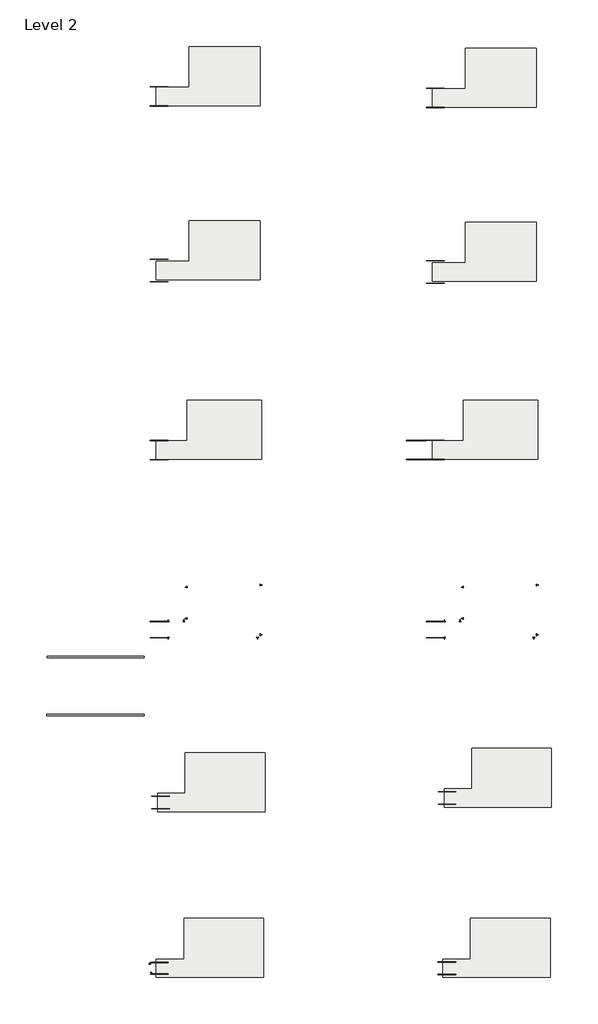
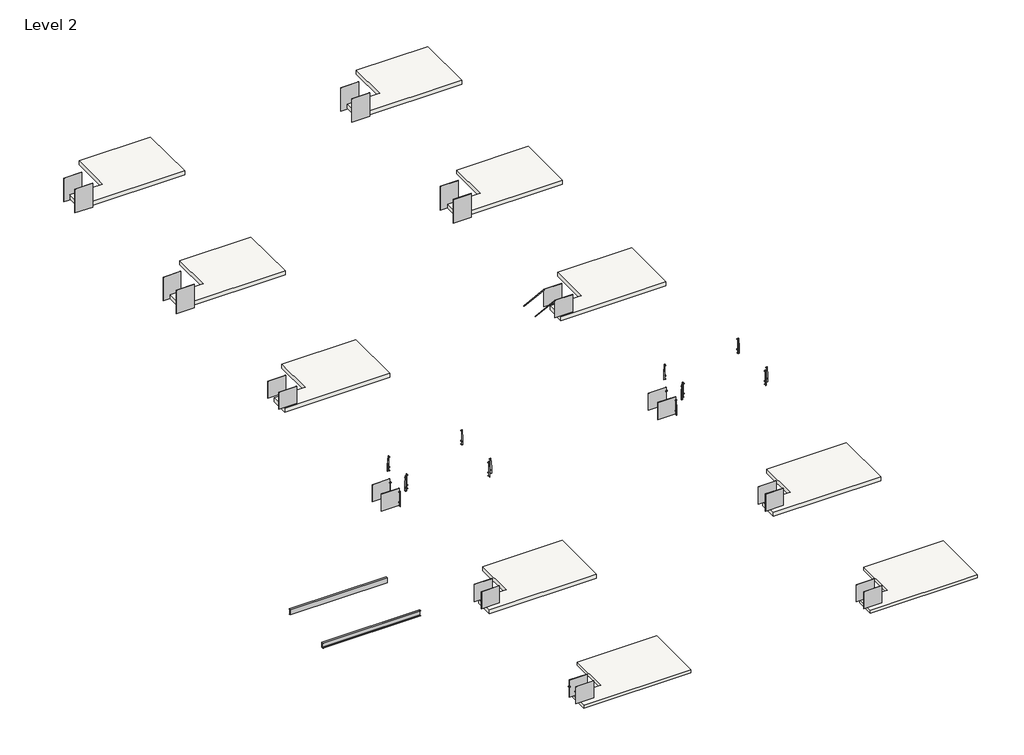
# One storey: 24 railings, 22 proxies, 10 slabs, 2 beams.
"""IFC4 building model written with IfcOpenShell, lengths in millimetres."""

from ifc_helpers import new_model, si_unit, point, frame, frame_2d, origin, place, context, project, spatial, polyline, circle_curve, trimmed, segment, composite_curve, outline, extrude, transform, mapped, element, save
from components import baluster_end_post_viva_solo_top_mount_welded_steel_channel_1b436ed5, baluster_end_post_viva_solo_top_mount_welded_steel_channel_cdb94760, baluster_end_post_viva_solo_top_mount_welded_steel_channel_e8a737ba, baluster_end_post_viva_solo_top_mount_welded_steel_channel_5e72ad2b, proxy_d6ac6665, top_rail_type_04732f16, top_rail_type_fascia_b1_stairs_f61284e1, fascia_glass_4227fe0e, fascia_glass_1f238249, fascia_glass_e3ba14f9, standard_glass_f61237d7, standard_glass_70b5ddb1, standard_glass_1c98aee0, standard_glass_702ddc61

model = new_model("IFC4")

# Units and contexts
model_context = context("Model", 3, world=origin())
ifc_project = project(units=[si_unit("LENGTHUNIT", "METRE", prefix="MILLI")], contexts=[model_context])

# Site, building, storey
site = spatial("IfcSite", under=ifc_project)
building = spatial("IfcBuilding", under=site)
storey = spatial("IfcBuildingStorey", under=building, Name="Level 2", Elevation=3048.0)

# Beams
placement = place(None, origin())
element("IfcBeam", 1, ObjectType="C-Channel : C12X30", at=placement, inside=storey, context=model_context, shape_type="SweptSolid", body=[
    extrude(outline(composite_curve([segment(polyline([(8765.1159615, 38.1), (8765.1159615, -266.7), (8684.5503365, -266.7)]), True, "CONTINUOUS"), segment(trimmed(circle_curve(frame_2d((8697.2503365, -266.7)), 12.7), [point((8684.5503365, -266.7))], [point((8697.2503365, -254.0))], False, "CARTESIAN"), True, "CONTINUOUS"), segment(polyline([(8697.2503365, -254.0), (8752.1183052, -245.3097675), (8752.1183052, 16.7097675), (8697.2503365, 25.4)]), True, "CONTINUOUS"), segment(trimmed(circle_curve(frame_2d((8697.2503365, 38.1)), 12.7), [point((8697.2503365, 25.4))], [point((8684.5503365, 38.1))], False, "CARTESIAN"), True, "CONTINUOUS"), segment(polyline([(8684.5503365, 38.1), (8765.1159615, 38.1)]), True, "CONTINUOUS")], self_intersect=False)), frame((-13153.9043293, 0.0, 0.0), z_axis=(1.0, 0.0, 0.0), x_axis=(0.0, 1.0, 0.0)), (0.0, 0.0, 1.0), 5394.5811842),
])
element("IfcBeam", 2, ObjectType="C-Channel : C12X30", at=placement, inside=storey, context=model_context, shape_type="SweptSolid", body=[
    extrude(outline(composite_curve([segment(polyline([(11863.9159615, 38.1), (11944.4815865, 38.1)]), True, "CONTINUOUS"), segment(trimmed(circle_curve(frame_2d((11931.7815865, 38.1)), 12.7), [point((11944.4815865, 38.1))], [point((11931.7815865, 25.4))], False, "CARTESIAN"), True, "CONTINUOUS"), segment(polyline([(11931.7815865, 25.4), (11876.9136177, 16.7097675), (11876.9136177, -245.3097675), (11931.7815865, -254.0)]), True, "CONTINUOUS"), segment(trimmed(circle_curve(frame_2d((11931.7815865, -266.7)), 12.7), [point((11931.7815865, -254.0))], [point((11944.4815865, -266.7))], False, "CARTESIAN"), True, "CONTINUOUS"), segment(polyline([(11944.4815865, -266.7), (11863.9159615, -266.7), (11863.9159615, 38.1)]), True, "CONTINUOUS")], self_intersect=False)), frame((-13118.7231451, 0.0, 0.0), z_axis=(1.0, 0.0, 0.0), x_axis=(0.0, 1.0, 0.0)), (0.0, 0.0, 1.0), 5359.4),
])

# Proxies
baluster_end_post_viva_solo_top_mount_welded_steel_channel_shape = baluster_end_post_viva_solo_top_mount_welded_steel_channel_1b436ed5(model_context)
element("IfcBuildingElementProxy", 3, Name="Baluster-End-Post-VIVA-SOLO-Top Mount : WELDED STEEL CHANNEL_TOP MOUNT FOLD_STRAIGHT", ObjectType="Baluster-End-Post-VIVA-SOLO-Top Mount : WELDED STEEL CHANNEL_TOP MOUNT FOLD_STRAIGHT", at=placement, inside=storey, context=model_context, shape_type="MappedRepresentation", body=[
    mapped(baluster_end_post_viva_solo_top_mount_welded_steel_channel_shape, transform((-5380.0229159, 13884.8448949, 3047.492), x_axis=(0.0, -1.0, 0.0), y_axis=(1.0, 0.0, 0.0), z_axis=(0.0, 0.0, 1.0))),
])
element("IfcBuildingElementProxy", 4, Name="Baluster-End-Post-VIVA-SOLO-Top Mount : WELDED STEEL CHANNEL_TOP MOUNT FOLD_STRAIGHT", ObjectType="Baluster-End-Post-VIVA-SOLO-Top Mount : WELDED STEEL CHANNEL_TOP MOUNT FOLD_STRAIGHT", at=placement, inside=storey, context=model_context, shape_type="MappedRepresentation", body=[
    mapped(baluster_end_post_viva_solo_top_mount_welded_steel_channel_shape, transform((-1359.864819, 13017.1276645, 3047.492), x_axis=(1.0, 0.0, 0.0), y_axis=(0.0, 1.0, 0.0), z_axis=(0.0, 0.0, 1.0))),
])
element("IfcBuildingElementProxy", 5, Name="Baluster-End-Post-VIVA-SOLO-Top Mount : WELDED STEEL CHANNEL_TOP MOUNT FOLD_STRAIGHT", ObjectType="Baluster-End-Post-VIVA-SOLO-Top Mount : WELDED STEEL CHANNEL_TOP MOUNT FOLD_STRAIGHT", at=placement, inside=storey, context=model_context, shape_type="MappedRepresentation", body=[
    mapped(baluster_end_post_viva_solo_top_mount_welded_steel_channel_shape, transform((-1384.947319, 16035.2826645, 3047.492), x_axis=(0.0, 1.0, 0.0), y_axis=(-1.0, 0.0, 0.0), z_axis=(0.0, 0.0, 1.0))),
])
element("IfcBuildingElementProxy", 6, Name="Baluster-End-Post-VIVA-SOLO-Top Mount : WELDED STEEL CHANNEL_TOP MOUNT FOLD_STRAIGHT", ObjectType="Baluster-End-Post-VIVA-SOLO-Top Mount : WELDED STEEL CHANNEL_TOP MOUNT FOLD_STRAIGHT", at=placement, inside=storey, context=model_context, shape_type="MappedRepresentation", body=[
    mapped(baluster_end_post_viva_solo_top_mount_welded_steel_channel_shape, transform((9859.4765953, 13884.8448949, 3047.492), x_axis=(0.0, -1.0, 0.0), y_axis=(1.0, 0.0, 0.0), z_axis=(0.0, 0.0, 1.0))),
])
element("IfcBuildingElementProxy", 7, Name="Baluster-End-Post-VIVA-SOLO-Top Mount : WELDED STEEL CHANNEL_TOP MOUNT FOLD_STRAIGHT", ObjectType="Baluster-End-Post-VIVA-SOLO-Top Mount : WELDED STEEL CHANNEL_TOP MOUNT FOLD_STRAIGHT", at=placement, inside=storey, context=model_context, shape_type="MappedRepresentation", body=[
    mapped(baluster_end_post_viva_solo_top_mount_welded_steel_channel_shape, transform((13879.6346922, 13017.1276645, 3047.492), x_axis=(1.0, 0.0, 0.0), y_axis=(0.0, 1.0, 0.0), z_axis=(0.0, 0.0, 1.0))),
])
element("IfcBuildingElementProxy", 8, Name="Baluster-End-Post-VIVA-SOLO-Top Mount : WELDED STEEL CHANNEL_TOP MOUNT FOLD_STRAIGHT", ObjectType="Baluster-End-Post-VIVA-SOLO-Top Mount : WELDED STEEL CHANNEL_TOP MOUNT FOLD_STRAIGHT", at=placement, inside=storey, context=model_context, shape_type="MappedRepresentation", body=[
    mapped(baluster_end_post_viva_solo_top_mount_welded_steel_channel_shape, transform((13854.5521922, 16035.2826645, 3047.492), x_axis=(0.0, 1.0, 0.0), y_axis=(-1.0, 0.0, 0.0), z_axis=(0.0, 0.0, 1.0))),
])
baluster_end_post_viva_solo_top_mount_welded_steel_channel_2_shape = baluster_end_post_viva_solo_top_mount_welded_steel_channel_cdb94760(model_context)
element("IfcBuildingElementProxy", 9, Name="Baluster-End-Post-VIVA-SOLO-Top Mount : WELDED STEEL CHANNEL_TOP MOUNT FOLD_STRAIGHT", ObjectType="Baluster-End-Post-VIVA-SOLO-Top Mount : WELDED STEEL CHANNEL_TOP MOUNT FOLD_STRAIGHT", at=placement, inside=storey, context=model_context, shape_type="MappedRepresentation", body=[
    mapped(baluster_end_post_viva_solo_top_mount_welded_steel_channel_2_shape, transform((-6439.864819, 13017.1276645, 3047.492), x_axis=(1.0, 0.0, 0.0), y_axis=(0.0, 1.0, 0.0), z_axis=(0.0, 0.0, 1.0))),
])
element("IfcBuildingElementProxy", 10, Name="Baluster-End-Post-VIVA-SOLO-Top Mount : WELDED STEEL CHANNEL_TOP MOUNT FOLD_STRAIGHT", ObjectType="Baluster-End-Post-VIVA-SOLO-Top Mount : WELDED STEEL CHANNEL_TOP MOUNT FOLD_STRAIGHT", at=placement, inside=storey, context=model_context, shape_type="MappedRepresentation", body=[
    mapped(baluster_end_post_viva_solo_top_mount_welded_steel_channel_2_shape, transform((8799.6346922, 13017.1276645, 3047.492), x_axis=(1.0, 0.0, 0.0), y_axis=(0.0, 1.0, 0.0), z_axis=(0.0, 0.0, 1.0))),
])
baluster_end_post_viva_solo_top_mount_welded_steel_channel_3_shape = baluster_end_post_viva_solo_top_mount_welded_steel_channel_e8a737ba(model_context)
element("IfcBuildingElementProxy", 11, Name="Baluster-End-Post-VIVA-SOLO-Top Mount : WELDED STEEL CHANNEL_TOP MOUNT FOLD_STRAIGHT", ObjectType="Baluster-End-Post-VIVA-SOLO-Top Mount : WELDED STEEL CHANNEL_TOP MOUNT FOLD_STRAIGHT", at=placement, inside=storey, context=model_context, shape_type="MappedRepresentation", body=[
    mapped(baluster_end_post_viva_solo_top_mount_welded_steel_channel_3_shape, transform((-6439.864819, 13839.5796645, 3047.492), x_axis=(-1.0, 0.0, 0.0), y_axis=(0.0, -1.0, 0.0), z_axis=(0.0, 0.0, 1.0))),
])
element("IfcBuildingElementProxy", 12, Name="Baluster-End-Post-VIVA-SOLO-Top Mount : WELDED STEEL CHANNEL_TOP MOUNT FOLD_STRAIGHT", ObjectType="Baluster-End-Post-VIVA-SOLO-Top Mount : WELDED STEEL CHANNEL_TOP MOUNT FOLD_STRAIGHT", at=placement, inside=storey, context=model_context, shape_type="MappedRepresentation", body=[
    mapped(baluster_end_post_viva_solo_top_mount_welded_steel_channel_3_shape, transform((8799.6346922, 13839.5796645, 3047.492), x_axis=(-1.0, 0.0, 0.0), y_axis=(0.0, -1.0, 0.0), z_axis=(0.0, 0.0, 1.0))),
])
baluster_end_post_viva_solo_top_mount_welded_steel_channel_4_shape = baluster_end_post_viva_solo_top_mount_welded_steel_channel_5e72ad2b(model_context)
element("IfcBuildingElementProxy", 13, Name="Baluster-End-Post-VIVA-SOLO-Top Mount : WELDED STEEL CHANNEL_TOP MOUNT FOLD_STRAIGHT", ObjectType="Baluster-End-Post-VIVA-SOLO-Top Mount : WELDED STEEL CHANNEL_TOP MOUNT FOLD_STRAIGHT", at=placement, inside=storey, context=model_context, shape_type="MappedRepresentation", body=[
    mapped(baluster_end_post_viva_solo_top_mount_welded_steel_channel_4_shape, transform((-5423.864819, 13839.5796645, 3047.492), x_axis=(-1.0, 0.0, 0.0), y_axis=(0.0, -1.0, 0.0), z_axis=(0.0, 0.0, 1.0))),
])
element("IfcBuildingElementProxy", 14, Name="Baluster-End-Post-VIVA-SOLO-Top Mount : WELDED STEEL CHANNEL_TOP MOUNT FOLD_STRAIGHT", ObjectType="Baluster-End-Post-VIVA-SOLO-Top Mount : WELDED STEEL CHANNEL_TOP MOUNT FOLD_STRAIGHT", at=placement, inside=storey, context=model_context, shape_type="MappedRepresentation", body=[
    mapped(baluster_end_post_viva_solo_top_mount_welded_steel_channel_4_shape, transform((-5380.0229159, 15916.8448949, 3047.492), x_axis=(0.0, -1.0, 0.0), y_axis=(1.0, 0.0, 0.0), z_axis=(0.0, 0.0, 1.0))),
])
element("IfcBuildingElementProxy", 15, Name="Baluster-End-Post-VIVA-SOLO-Top Mount : WELDED STEEL CHANNEL_TOP MOUNT FOLD_STRAIGHT", ObjectType="Baluster-End-Post-VIVA-SOLO-Top Mount : WELDED STEEL CHANNEL_TOP MOUNT FOLD_STRAIGHT", at=placement, inside=storey, context=model_context, shape_type="MappedRepresentation", body=[
    mapped(baluster_end_post_viva_solo_top_mount_welded_steel_channel_4_shape, transform((-1384.947319, 12987.2826645, 3047.492), x_axis=(0.0, 1.0, 0.0), y_axis=(-1.0, 0.0, 0.0), z_axis=(0.0, 0.0, 1.0))),
])
element("IfcBuildingElementProxy", 16, Name="Baluster-End-Post-VIVA-SOLO-Top Mount : WELDED STEEL CHANNEL_TOP MOUNT FOLD_STRAIGHT", ObjectType="Baluster-End-Post-VIVA-SOLO-Top Mount : WELDED STEEL CHANNEL_TOP MOUNT FOLD_STRAIGHT", at=placement, inside=storey, context=model_context, shape_type="MappedRepresentation", body=[
    mapped(baluster_end_post_viva_solo_top_mount_welded_steel_channel_4_shape, transform((9815.6346922, 13839.5796645, 3047.492), x_axis=(-1.0, 0.0, 0.0), y_axis=(0.0, -1.0, 0.0), z_axis=(0.0, 0.0, 1.0))),
])
element("IfcBuildingElementProxy", 17, Name="Baluster-End-Post-VIVA-SOLO-Top Mount : WELDED STEEL CHANNEL_TOP MOUNT FOLD_STRAIGHT", ObjectType="Baluster-End-Post-VIVA-SOLO-Top Mount : WELDED STEEL CHANNEL_TOP MOUNT FOLD_STRAIGHT", at=placement, inside=storey, context=model_context, shape_type="MappedRepresentation", body=[
    mapped(baluster_end_post_viva_solo_top_mount_welded_steel_channel_4_shape, transform((9859.4765953, 15916.8448949, 3047.492), x_axis=(0.0, -1.0, 0.0), y_axis=(1.0, 0.0, 0.0), z_axis=(0.0, 0.0, 1.0))),
])
element("IfcBuildingElementProxy", 18, Name="Baluster-End-Post-VIVA-SOLO-Top Mount : WELDED STEEL CHANNEL_TOP MOUNT FOLD_STRAIGHT", ObjectType="Baluster-End-Post-VIVA-SOLO-Top Mount : WELDED STEEL CHANNEL_TOP MOUNT FOLD_STRAIGHT", at=placement, inside=storey, context=model_context, shape_type="MappedRepresentation", body=[
    mapped(baluster_end_post_viva_solo_top_mount_welded_steel_channel_4_shape, transform((13854.5521922, 12987.2826645, 3047.492), x_axis=(0.0, 1.0, 0.0), y_axis=(-1.0, 0.0, 0.0), z_axis=(0.0, 0.0, 1.0))),
])
proxy_shape = proxy_d6ac6665(model_context)
element("IfcBuildingElementProxy", 19, Name="Circular - 1 1/2\" Straight - Support : Circular - 1 1/2\" Straight - Support", ObjectType="Circular - 1 1/2\" Straight - Support : Circular - 1 1/2\" Straight - Support", at=placement, inside=storey, context=model_context, shape_type="MappedRepresentation", body=[
    mapped(proxy_shape, transform((-7414.4484971, -5473.1403686, 3759.301061), x_axis=(1.0, 0.0, 0.0), y_axis=(0.0, 1.0, 0.0), z_axis=(0.0, 0.0, 1.0))),
])
element("IfcBuildingElementProxy", 20, Name="Circular - 1 1/2\" Straight - Support : Circular - 1 1/2\" Straight - Support", ObjectType="Circular - 1 1/2\" Straight - Support : Circular - 1 1/2\" Straight - Support", at=placement, inside=storey, context=model_context, shape_type="MappedRepresentation", body=[
    mapped(proxy_shape, transform((-7414.4484971, -5009.5903686, 3759.301061), x_axis=(-1.0, 0.0, 0.0), y_axis=(0.0, -1.0, 0.0), z_axis=(0.0, 0.0, 1.0))),
])
element("IfcBuildingElementProxy", 21, Name="Circular - 1 1/2\" Straight - Support : Circular - 1 1/2\" Straight - Support", ObjectType="Circular - 1 1/2\" Straight - Support : Circular - 1 1/2\" Straight - Support", at=placement, inside=storey, context=model_context, shape_type="MappedRepresentation", body=[
    mapped(proxy_shape, transform((-7414.4484971, -5473.1403686, 3759.301061), x_axis=(1.0, 0.0, 0.0), y_axis=(0.0, 1.0, 0.0), z_axis=(0.0, 0.0, 1.0))),
])
element("IfcBuildingElementProxy", 22, Name="Circular - 1 1/2\" Straight - Support : Circular - 1 1/2\" Straight - Support", ObjectType="Circular - 1 1/2\" Straight - Support : Circular - 1 1/2\" Straight - Support", at=placement, inside=storey, context=model_context, shape_type="MappedRepresentation", body=[
    mapped(proxy_shape, transform((-7414.4484971, -5009.5903686, 3759.301061), x_axis=(-1.0, 0.0, 0.0), y_axis=(0.0, -1.0, 0.0), z_axis=(0.0, 0.0, 1.0))),
])
top_rail_type_shape = top_rail_type_04732f16(model_context)
element("IfcBuildingElementProxy", 23, Name="Top Rail Type", ObjectType="Top Rail Type", at=placement, inside=storey, context=model_context, shape_type="MappedRepresentation", body=[
    mapped(top_rail_type_shape, transform((0.0, 0.0, 0.0), x_axis=(1.0, 0.0, 0.0), y_axis=(0.0, 1.0, 0.0), z_axis=(0.0, 0.0, 1.0))),
])
top_rail_type_fascia_b1_stairs_shape = top_rail_type_fascia_b1_stairs_f61284e1(model_context)
element("IfcBuildingElementProxy", 24, Name="Top Rail Type Fascia B1 Stairs", ObjectType="Top Rail Type Fascia B1 Stairs", at=placement, inside=storey, context=model_context, shape_type="MappedRepresentation", body=[
    mapped(top_rail_type_fascia_b1_stairs_shape, transform((0.0, 0.0, 0.0), x_axis=(1.0, 0.0, 0.0), y_axis=(0.0, 1.0, 0.0), z_axis=(0.0, 0.0, 1.0))),
])

# Railings
fascia_glass_shape = fascia_glass_4227fe0e(model_context)
element("IfcRailing", 25, ObjectType="Baluster-Excess-Fill-Straight-Panel-VIVA : Fascia_Glass", at=placement, inside=storey, context=model_context, shape_type="MappedRepresentation", body=[
    mapped(fascia_glass_shape, transform((-7438.9302571, 32625.8869132, 3048.0), x_axis=(0.0, -1.0, 0.0), y_axis=(1.0, 0.0, 0.0), z_axis=(0.0, 0.0, 1.0))),
])
element("IfcRailing", 26, ObjectType="Baluster-Excess-Fill-Straight-Panel-VIVA : Fascia_Glass", at=placement, inside=storey, context=model_context, shape_type="MappedRepresentation", body=[
    mapped(fascia_glass_shape, transform((-7438.9302571, 42322.3242132, 3048.0), x_axis=(0.0, -1.0, 0.0), y_axis=(1.0, 0.0, 0.0), z_axis=(0.0, 0.0, 1.0))),
])
element("IfcRailing", 27, ObjectType="Baluster-Excess-Fill-Straight-Panel-VIVA : Fascia_Glass", at=placement, inside=storey, context=model_context, shape_type="MappedRepresentation", body=[
    mapped(fascia_glass_shape, transform((7800.5692541, 42239.3431835, 3048.0), x_axis=(0.0, -1.0, 0.0), y_axis=(1.0, 0.0, 0.0), z_axis=(0.0, 0.0, 1.0))),
])
fascia_glass_2_shape = fascia_glass_1f238249(model_context)
element("IfcRailing", 28, ObjectType="Baluster-Excess-Fill-Straight-Panel-VIVA : Fascia_Glass", at=placement, inside=storey, context=model_context, shape_type="MappedRepresentation", body=[
    mapped(fascia_glass_2_shape, transform((-7438.9302571, 33812.7564752, 3048.0), x_axis=(0.0, 1.0, 0.0), y_axis=(-1.0, 0.0, 0.0), z_axis=(0.0, 0.0, 1.0))),
])
element("IfcRailing", 29, ObjectType="Baluster-Excess-Fill-Straight-Panel-VIVA : Fascia_Glass", at=placement, inside=storey, context=model_context, shape_type="MappedRepresentation", body=[
    mapped(fascia_glass_2_shape, transform((7800.5692541, 33729.7754454, 3048.0), x_axis=(0.0, 1.0, 0.0), y_axis=(-1.0, 0.0, 0.0), z_axis=(0.0, 0.0, 1.0))),
])
element("IfcRailing", 30, ObjectType="Baluster-Excess-Fill-Straight-Panel-VIVA : Fascia_Glass", at=placement, inside=storey, context=model_context, shape_type="MappedRepresentation", body=[
    mapped(fascia_glass_2_shape, transform((-7438.9302571, 43312.3291942, 3048.0), x_axis=(0.0, 1.0, 0.0), y_axis=(-1.0, 0.0, 0.0), z_axis=(0.0, 0.0, 1.0))),
])
element("IfcRailing", 31, ObjectType="Baluster-Excess-Fill-Straight-Panel-VIVA : Fascia_Glass", at=placement, inside=storey, context=model_context, shape_type="MappedRepresentation", body=[
    mapped(fascia_glass_2_shape, transform((7800.5692541, 43229.3481645, 3048.0), x_axis=(0.0, 1.0, 0.0), y_axis=(-1.0, 0.0, 0.0), z_axis=(0.0, 0.0, 1.0))),
])
fascia_glass_3_shape = fascia_glass_e3ba14f9(model_context)
element("IfcRailing", 32, ObjectType="Baluster-Excess-Fill-Straight-Panel-VIVA : Fascia_Glass", at=placement, inside=storey, context=model_context, shape_type="MappedRepresentation", body=[
    mapped(fascia_glass_3_shape, transform((7795.6592696, 32542.9058835, 3048.0), x_axis=(0.0, -1.0, 0.0), y_axis=(1.0, 0.0, 0.0), z_axis=(0.0, 0.0, 1.0))),
])
standard_glass_shape = standard_glass_f61237d7(model_context)
element("IfcRailing", 33, ObjectType="Baluster-Excess-Fill-Straight-Panel-VIVA : Standard_Glass", at=placement, inside=storey, context=model_context, shape_type="MappedRepresentation", body=[
    mapped(standard_glass_shape, transform((8450.5843963, 3838.276149, 3048.0), x_axis=(0.0, -1.0, 0.0), y_axis=(1.0, 0.0, 0.0), z_axis=(0.0, 0.0, 1.0))),
])
element("IfcRailing", 34, ObjectType="Baluster-Excess-Fill-Straight-Panel-VIVA : Standard_Glass", at=placement, inside=storey, context=model_context, shape_type="MappedRepresentation", body=[
    mapped(standard_glass_shape, transform((-7363.6892687, 3583.8130519, 3048.0), x_axis=(0.0, -1.0, 0.0), y_axis=(1.0, 0.0, 0.0), z_axis=(0.0, 0.0, 1.0))),
])
element("IfcRailing", 35, ObjectType="Baluster-Excess-Fill-Straight-Panel-VIVA : Standard_Glass", at=placement, inside=storey, context=model_context, shape_type="MappedRepresentation", body=[
    mapped(standard_glass_shape, transform((-7438.9302571, 13014.5241645, 3048.0), x_axis=(0.0, -1.0, 0.0), y_axis=(1.0, 0.0, 0.0), z_axis=(0.0, 0.0, 1.0))),
])
element("IfcRailing", 36, ObjectType="Baluster-Excess-Fill-Straight-Panel-VIVA : Standard_Glass", at=placement, inside=storey, context=model_context, shape_type="MappedRepresentation", body=[
    mapped(standard_glass_shape, transform((7800.5692541, 22833.7196645, 3048.0), x_axis=(0.0, -1.0, 0.0), y_axis=(1.0, 0.0, 0.0), z_axis=(0.0, 0.0, 1.0))),
])
element("IfcRailing", 37, ObjectType="Baluster-Excess-Fill-Straight-Panel-VIVA : Standard_Glass", at=placement, inside=storey, context=model_context, shape_type="MappedRepresentation", body=[
    mapped(standard_glass_shape, transform((7800.5692541, 13014.5241645, 3048.0), x_axis=(0.0, -1.0, 0.0), y_axis=(1.0, 0.0, 0.0), z_axis=(0.0, 0.0, 1.0))),
])
element("IfcRailing", 38, ObjectType="Baluster-Excess-Fill-Straight-Panel-VIVA : Standard_Glass", at=placement, inside=storey, context=model_context, shape_type="MappedRepresentation", body=[
    mapped(standard_glass_shape, transform((-7419.2964863, -5528.4488686, 3048.0), x_axis=(0.0, -1.0, 0.0), y_axis=(1.0, 0.0, 0.0), z_axis=(0.0, 0.0, 1.0))),
])
element("IfcRailing", 39, ObjectType="Baluster-Excess-Fill-Straight-Panel-VIVA : Standard_Glass", at=placement, inside=storey, context=model_context, shape_type="MappedRepresentation", body=[
    mapped(standard_glass_shape, transform((8440.1191671, -5553.8488686, 3048.0), x_axis=(0.0, -1.0, 0.0), y_axis=(1.0, 0.0, 0.0), z_axis=(0.0, 0.0, 1.0))),
])
standard_glass_2_shape = standard_glass_70b5ddb1(model_context)
element("IfcRailing", 40, ObjectType="Baluster-Excess-Fill-Straight-Panel-VIVA : Standard_Glass", at=placement, inside=storey, context=model_context, shape_type="MappedRepresentation", body=[
    mapped(standard_glass_2_shape, transform((8450.5843963, 4460.068149, 3048.0), x_axis=(0.0, 1.0, 0.0), y_axis=(-1.0, 0.0, 0.0), z_axis=(0.0, 0.0, 1.0))),
])
element("IfcRailing", 41, ObjectType="Baluster-Excess-Fill-Straight-Panel-VIVA : Standard_Glass", at=placement, inside=storey, context=model_context, shape_type="MappedRepresentation", body=[
    mapped(standard_glass_2_shape, transform((-7363.6892687, 4205.6050519, 3048.0), x_axis=(0.0, 1.0, 0.0), y_axis=(-1.0, 0.0, 0.0), z_axis=(0.0, 0.0, 1.0))),
])
element("IfcRailing", 42, ObjectType="Baluster-Excess-Fill-Straight-Panel-VIVA : Standard_Glass", at=placement, inside=storey, context=model_context, shape_type="MappedRepresentation", body=[
    mapped(standard_glass_2_shape, transform((-7438.9302571, 13842.1831645, 3048.0), x_axis=(0.0, 1.0, 0.0), y_axis=(-1.0, 0.0, 0.0), z_axis=(0.0, 0.0, 1.0))),
])
element("IfcRailing", 43, ObjectType="Baluster-Excess-Fill-Straight-Panel-VIVA : Standard_Glass", at=placement, inside=storey, context=model_context, shape_type="MappedRepresentation", body=[
    mapped(standard_glass_2_shape, transform((7800.5692541, 23827.0228835, 3048.0), x_axis=(0.0, 1.0, 0.0), y_axis=(-1.0, 0.0, 0.0), z_axis=(0.0, 0.0, 1.0))),
])
element("IfcRailing", 44, ObjectType="Baluster-Excess-Fill-Straight-Panel-VIVA : Standard_Glass", at=placement, inside=storey, context=model_context, shape_type="MappedRepresentation", body=[
    mapped(standard_glass_2_shape, transform((7800.5692541, 13842.1831645, 3048.0), x_axis=(0.0, 1.0, 0.0), y_axis=(-1.0, 0.0, 0.0), z_axis=(0.0, 0.0, 1.0))),
])
element("IfcRailing", 45, ObjectType="Baluster-Excess-Fill-Straight-Panel-VIVA : Standard_Glass", at=placement, inside=storey, context=model_context, shape_type="MappedRepresentation", body=[
    mapped(standard_glass_2_shape, transform((-7419.2964863, -4954.2818686, 3048.0), x_axis=(0.0, 1.0, 0.0), y_axis=(-1.0, 0.0, 0.0), z_axis=(0.0, 0.0, 1.0))),
])
element("IfcRailing", 46, ObjectType="Baluster-Excess-Fill-Straight-Panel-VIVA : Standard_Glass", at=placement, inside=storey, context=model_context, shape_type="MappedRepresentation", body=[
    mapped(standard_glass_2_shape, transform((8440.1191671, -4928.8818686, 3048.0), x_axis=(0.0, 1.0, 0.0), y_axis=(-1.0, 0.0, 0.0), z_axis=(0.0, 0.0, 1.0))),
])
standard_glass_3_shape = standard_glass_1c98aee0(model_context)
element("IfcRailing", 47, ObjectType="Baluster-Excess-Fill-Straight-Panel-VIVA : Standard_Glass", at=placement, inside=storey, context=model_context, shape_type="MappedRepresentation", body=[
    mapped(standard_glass_3_shape, transform((-7448.4470753, 22815.1006942, 3048.0), x_axis=(0.0, -1.0, 0.0), y_axis=(1.0, 0.0, 0.0), z_axis=(0.0, 0.0, 1.0))),
])
standard_glass_4_shape = standard_glass_702ddc61(model_context)
element("IfcRailing", 48, ObjectType="Baluster-Excess-Fill-Straight-Panel-VIVA : Standard_Glass", at=placement, inside=storey, context=model_context, shape_type="MappedRepresentation", body=[
    mapped(standard_glass_4_shape, transform((-7448.4470753, 23811.5426942, 3048.0), x_axis=(0.0, 1.0, 0.0), y_axis=(-1.0, 0.0, 0.0), z_axis=(0.0, 0.0, 1.0))),
])

# Slabs
element("IfcSlab", 49, ObjectType="Generic - 6.5\"", at=placement, inside=storey, context=model_context, shape_type="SweptSolid", body=[
    extrude(outline(polyline([(-5574.677319, -2498.1653686), (-1186.827319, -2498.1653686), (-1186.827319, -5749.3653686), (-7098.677319, -5749.3653686), (-7098.677319, -4733.3653686), (-5574.677319, -4733.3653686), (-5574.677319, -2498.1653686)])), frame((0.0, 0.0, 2880.36), z_axis=(0.0, 0.0, 1.0), x_axis=(1.0, 0.0, 0.0)), (0.0, 0.0, 1.0), 167.64),
])
element("IfcSlab", 50, ObjectType="Generic - 6.5\"", at=placement, inside=storey, context=model_context, shape_type="SweptSolid", body=[
    extrude(outline(polyline([(10239.5963459, -2498.1653686), (14627.4463459, -2498.1653686), (14627.4463459, -5749.3653686), (8715.5963459, -5749.3653686), (8715.5963459, -4733.3653686), (10239.5963459, -4733.3653686), (10239.5963459, -2498.1653686)])), frame((0.0, 0.0, 2880.36), z_axis=(0.0, 0.0, 1.0), x_axis=(1.0, 0.0, 0.0)), (0.0, 0.0, 1.0), 167.64),
])
element("IfcSlab", 51, ObjectType="Generic - 9\"", at=placement, inside=storey, context=model_context, shape_type="SweptSolid", body=[
    extrude(outline(polyline([(10314.8373344, 6893.959649), (14702.6873344, 6893.959649), (14702.6873344, 3642.759649), (8790.8373344, 3642.759649), (8790.8373344, 4658.759649), (10314.8373344, 4658.759649), (10314.8373344, 6893.959649)])), frame((0.0, 0.0, 2815.59), z_axis=(0.0, 0.0, 1.0), x_axis=(1.0, 0.0, 0.0)), (0.0, 0.0, 1.0), 232.41),
])
element("IfcSlab", 52, ObjectType="Generic - 9\"", at=placement, inside=storey, context=model_context, shape_type="SweptSolid", body=[
    extrude(outline(polyline([(-5499.4363306, 6639.4965519), (-1111.5863306, 6639.4965519), (-1111.5863306, 3388.2965519), (-7023.4363306, 3388.2965519), (-7023.4363306, 4404.2965519), (-5499.4363306, 4404.2965519), (-5499.4363306, 6639.4965519)])), frame((0.0, 0.0, 2815.59), z_axis=(0.0, 0.0, 1.0), x_axis=(1.0, 0.0, 0.0)), (0.0, 0.0, 1.0), 232.41),
])
element("IfcSlab", 53, ObjectType="Generic - 9\"", at=placement, inside=storey, context=model_context, shape_type="SweptSolid", body=[
    extrude(outline(polyline([(9847.5410306, 26075.1406645), (13939.2692275, 26075.1406645), (13939.2692275, 22823.9406645), (8140.8221922, 22823.9406645), (8140.8221922, 23839.9406645), (9847.5410306, 23839.9406645), (9847.5410306, 26075.1406645)])), frame((0.0, 0.0, 2815.59), z_axis=(0.0, 0.0, 1.0), x_axis=(1.0, 0.0, 0.0)), (0.0, 0.0, 1.0), 232.41),
])
element("IfcSlab", 54, ObjectType="Generic - 9\"", at=placement, inside=storey, context=model_context, shape_type="SweptSolid", body=[
    extrude(outline(polyline([(-5299.9035536, 35962.5216942), (-1364.627319, 35962.5216942), (-1364.627319, 32711.3216942), (-7098.677319, 32711.3216942), (-7098.677319, 33727.3216942), (-5299.9035536, 33727.3216942), (-5299.9035536, 35962.5216942)])), frame((0.0, 0.0, 2815.59), z_axis=(0.0, 0.0, 1.0), x_axis=(1.0, 0.0, 0.0)), (0.0, 0.0, 1.0), 232.41),
])
element("IfcSlab", 55, ObjectType="Generic - 9\"", at=placement, inside=storey, context=model_context, shape_type="SweptSolid", body=[
    extrude(outline(polyline([(9939.5959577, 35879.5406645), (13874.8957112, 35879.5406645), (13874.8957112, 32628.3406645), (8140.8221922, 32628.3406645), (8140.8221922, 33644.3406645), (9939.5959577, 33644.3406645), (9939.5959577, 35879.5406645)])), frame((0.0, 0.0, 2815.59), z_axis=(0.0, 0.0, 1.0), x_axis=(1.0, 0.0, 0.0)), (0.0, 0.0, 1.0), 232.41),
])
element("IfcSlab", 56, ObjectType="Generic - 9\"", at=placement, inside=storey, context=model_context, shape_type="SweptSolid", body=[
    extrude(outline(polyline([(-5391.9584806, 26056.5216942), (-1300.2302838, 26056.5216942), (-1300.2302838, 22805.3216942), (-7098.677319, 22805.3216942), (-7098.677319, 23821.3216942), (-5391.9584806, 23821.3216942), (-5391.9584806, 26056.5216942)])), frame((0.0, 0.0, 2815.59), z_axis=(0.0, 0.0, 1.0), x_axis=(1.0, 0.0, 0.0)), (0.0, 0.0, 1.0), 232.41),
])
element("IfcSlab", 57, ObjectType="Generic - 9\"", at=placement, inside=storey, context=model_context, shape_type="SweptSolid", body=[
    extrude(outline(polyline([(-5299.9035536, 45563.7216942), (-1364.627319, 45563.7216942), (-1364.627319, 42312.5216942), (-7098.677319, 42312.5216942), (-7098.677319, 43328.5216942), (-5299.9035536, 43328.5216942), (-5299.9035536, 45563.7216942)])), frame((0.0, 0.0, 2815.59), z_axis=(0.0, 0.0, 1.0), x_axis=(1.0, 0.0, 0.0)), (0.0, 0.0, 1.0), 232.41),
])
element("IfcSlab", 58, ObjectType="Generic - 9\"", at=placement, inside=storey, context=model_context, shape_type="SweptSolid", body=[
    extrude(outline(polyline([(9939.5959577, 45480.7406645), (13874.8721922, 45480.7406645), (13874.8721922, 42229.5406645), (8140.8221922, 42229.5406645), (8140.8221922, 43245.5406645), (9939.5959577, 43245.5406645), (9939.5959577, 45480.7406645)])), frame((0.0, 0.0, 2815.59), z_axis=(0.0, 0.0, 1.0), x_axis=(1.0, 0.0, 0.0)), (0.0, 0.0, 1.0), 232.41),
])

save(model, "model.ifc")
